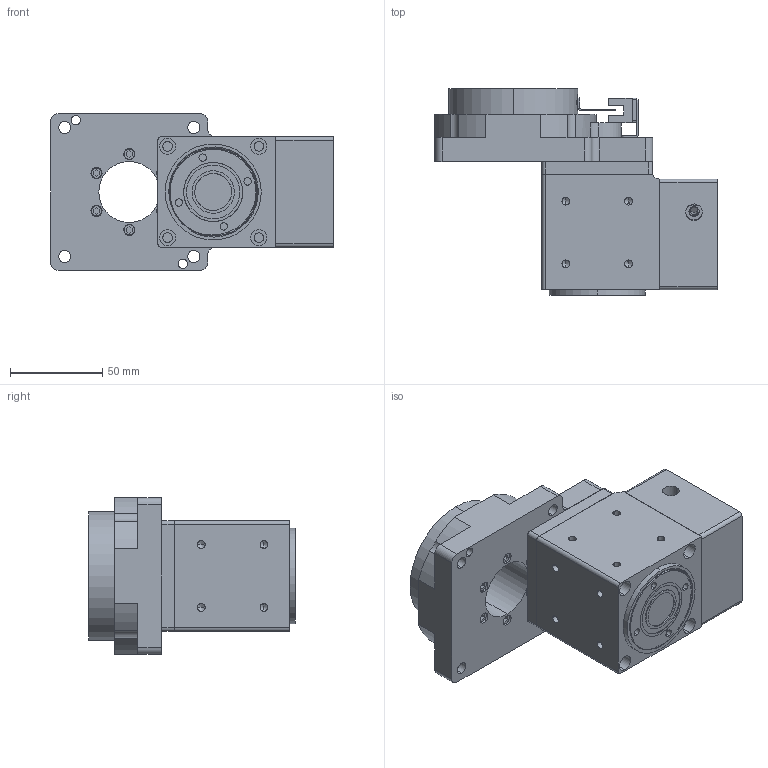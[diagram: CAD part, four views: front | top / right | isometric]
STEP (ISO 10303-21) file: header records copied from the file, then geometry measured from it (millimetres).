
FILE_DESCRIPTION(('Open CASCADE Model'),'2;1');
FILE_NAME('Open CASCADE Shape Model','2026-10-11T03:01:22',('Author'),( 'Open CASCADE'),'Open CASCADE STEP processor 7.8','Open CASCADE 7.8' ,'Unknown');
FILE_SCHEMA(('AUTOMOTIVE_DESIGN { 1 0 10303 214 1 1 1 1 }'));
Length unit declared in the file: millimetre
Products named in the file (3): NTFA85-R-05-PVFD60-M4(配400W伺服 输入14-50-70-M4); NTFA85-R-05-PVFD60-M4(配400W伺服 输入14-50-70-M4)-01; NTFA85-R-05-PVFD60-M4(配400W伺服 输入14-50-70-M4)-02
Assembly tree (2 placements, depth 2):
  NTFA85-R-05-PVFD60-M4(配400W伺服 输入14-50-70-M4)
    NTFA85-R-05-PVFD60-M4(配400W伺服 输入14-50-70-M4)-01
    NTFA85-R-05-PVFD60-M4(配400W伺服 输入14-50-70-M4)-02
Bounding box: 153 x 112 x 85 mm (x, y, z)
Volume: 483753.2 mm3; surface area: 157355 mm2
Topology: 15 solids, 23 shells, 1822 faces, 5370 edges, 3503 vertices
Faces by surface type: plane 936, cylinder 397, bspline 304, cone 185
Entity records: 217852 total; most frequent: CARTESIAN_POINT 123643, DIRECTION 14260, ORIENTED_EDGE 10600, PCURVE 10600, DEFINITIONAL_REPRESENTATION 10600, LINE 8174, VECTOR 8174, EDGE_CURVE 5300
